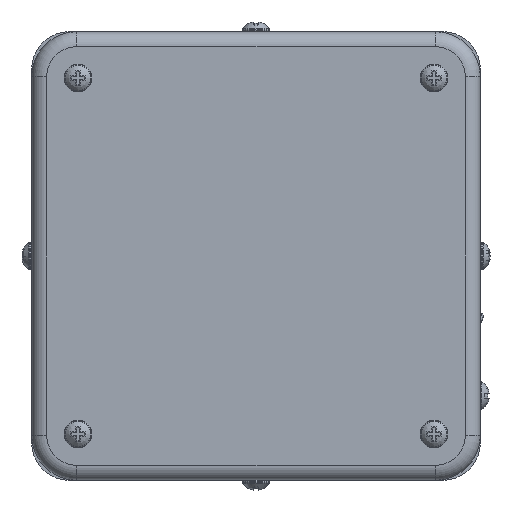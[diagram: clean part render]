
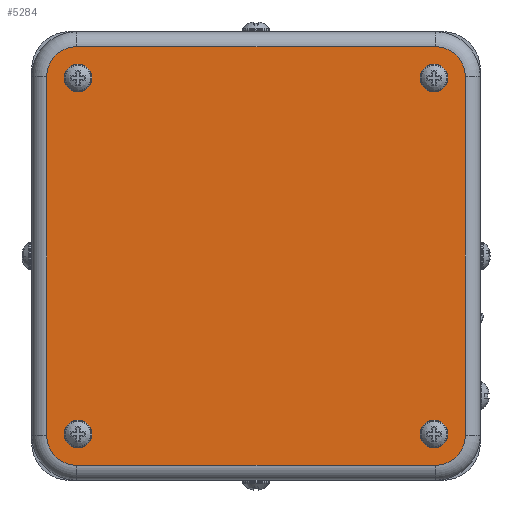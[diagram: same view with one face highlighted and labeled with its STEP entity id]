
A CAD part, left-side view. The second image highlights one B-rep face of the part: STEP entity #5284.
In plain terms, the highlighted planar face has unit normal (-1, 0, 0).
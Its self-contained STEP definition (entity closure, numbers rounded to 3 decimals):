
#340=FACE_BOUND('',#1137,.T.);
#341=FACE_BOUND('',#1138,.T.);
#342=FACE_BOUND('',#1139,.T.);
#343=FACE_BOUND('',#1140,.T.);
#437=CIRCLE('',#5549,2.8);
#517=CIRCLE('',#5737,6.);
#520=CIRCLE('',#5742,6.);
#523=CIRCLE('',#5747,6.);
#525=CIRCLE('',#5751,6.);
#526=CIRCLE('',#5753,2.8);
#527=CIRCLE('',#5754,2.8);
#528=CIRCLE('',#5755,2.8);
#750=FACE_OUTER_BOUND('',#1136,.T.);
#1136=EDGE_LOOP('',(#3955,#3956,#3957,#3958,#3959,#3960,#3961,#3962));
#1137=EDGE_LOOP('',(#3963));
#1138=EDGE_LOOP('',(#3964));
#1139=EDGE_LOOP('',(#3965));
#1140=EDGE_LOOP('',(#3966));
#1490=LINE('',#8347,#1857);
#1493=LINE('',#8358,#1860);
#1495=LINE('',#8367,#1862);
#1497=LINE('',#8376,#1864);
#1857=VECTOR('',#6723,72.);
#1860=VECTOR('',#6738,72.);
#1862=VECTOR('',#6750,72.);
#1864=VECTOR('',#6762,72.);
#2117=VERTEX_POINT('',#7530);
#2303=VERTEX_POINT('',#8344);
#2304=VERTEX_POINT('',#8346);
#2305=VERTEX_POINT('',#8351);
#2306=VERTEX_POINT('',#8356);
#2307=VERTEX_POINT('',#8360);
#2308=VERTEX_POINT('',#8365);
#2309=VERTEX_POINT('',#8369);
#2310=VERTEX_POINT('',#8374);
#2311=VERTEX_POINT('',#8380);
#2312=VERTEX_POINT('',#8382);
#2313=VERTEX_POINT('',#8384);
#2628=EDGE_CURVE('',#2117,#2117,#437,.T.);
#2888=EDGE_CURVE('',#2303,#2304,#1490,.T.);
#2892=EDGE_CURVE('',#2305,#2303,#517,.T.);
#2895=EDGE_CURVE('',#2306,#2305,#1493,.T.);
#2897=EDGE_CURVE('',#2307,#2306,#520,.T.);
#2900=EDGE_CURVE('',#2308,#2307,#1495,.T.);
#2902=EDGE_CURVE('',#2309,#2308,#523,.T.);
#2905=EDGE_CURVE('',#2310,#2309,#1497,.T.);
#2906=EDGE_CURVE('',#2304,#2310,#525,.T.);
#2907=EDGE_CURVE('',#2311,#2311,#526,.T.);
#2908=EDGE_CURVE('',#2312,#2312,#527,.T.);
#2909=EDGE_CURVE('',#2313,#2313,#528,.T.);
#3955=ORIENTED_EDGE('',*,*,#2906,.F.);
#3956=ORIENTED_EDGE('',*,*,#2888,.F.);
#3957=ORIENTED_EDGE('',*,*,#2892,.F.);
#3958=ORIENTED_EDGE('',*,*,#2895,.F.);
#3959=ORIENTED_EDGE('',*,*,#2897,.F.);
#3960=ORIENTED_EDGE('',*,*,#2900,.F.);
#3961=ORIENTED_EDGE('',*,*,#2902,.F.);
#3962=ORIENTED_EDGE('',*,*,#2905,.F.);
#3963=ORIENTED_EDGE('',*,*,#2907,.T.);
#3964=ORIENTED_EDGE('',*,*,#2628,.T.);
#3965=ORIENTED_EDGE('',*,*,#2908,.T.);
#3966=ORIENTED_EDGE('',*,*,#2909,.T.);
#4692=PLANE('',#5752);
#5284=ADVANCED_FACE('',(#750,#340,#341,#342,#343),#4692,.F.);
#5549=AXIS2_PLACEMENT_3D('',#7531,#6207,#6208);
#5737=AXIS2_PLACEMENT_3D('',#8353,#6731,#6732);
#5742=AXIS2_PLACEMENT_3D('',#8362,#6743,#6744);
#5747=AXIS2_PLACEMENT_3D('',#8371,#6755,#6756);
#5751=AXIS2_PLACEMENT_3D('',#8378,#6765,#6766);
#5752=AXIS2_PLACEMENT_3D('',#8379,#6767,#6768);
#5753=AXIS2_PLACEMENT_3D('',#8381,#6769,#6770);
#5754=AXIS2_PLACEMENT_3D('',#8383,#6771,#6772);
#5755=AXIS2_PLACEMENT_3D('',#8385,#6773,#6774);
#6207=DIRECTION('center_axis',(1.,0.,0.));
#6208=DIRECTION('ref_axis',(0.,0.,1.));
#6723=DIRECTION('',(0.,0.,-1.));
#6731=DIRECTION('center_axis',(1.,0.,0.));
#6732=DIRECTION('ref_axis',(0.,-0.707,0.707));
#6738=DIRECTION('',(0.,-1.,0.));
#6743=DIRECTION('center_axis',(1.,0.,0.));
#6744=DIRECTION('ref_axis',(0.,0.707,0.707));
#6750=DIRECTION('',(0.,0.,1.));
#6755=DIRECTION('center_axis',(1.,0.,0.));
#6756=DIRECTION('ref_axis',(0.,0.707,-0.707));
#6762=DIRECTION('',(0.,1.,0.));
#6765=DIRECTION('center_axis',(1.,0.,0.));
#6766=DIRECTION('ref_axis',(0.,-0.707,-0.707));
#6767=DIRECTION('center_axis',(1.,0.,0.));
#6768=DIRECTION('ref_axis',(0.,0.,-1.));
#6769=DIRECTION('center_axis',(1.,0.,0.));
#6770=DIRECTION('ref_axis',(0.,0.,1.));
#6771=DIRECTION('center_axis',(1.,0.,0.));
#6772=DIRECTION('ref_axis',(0.,0.,1.));
#6773=DIRECTION('center_axis',(1.,0.,0.));
#6774=DIRECTION('ref_axis',(0.,0.,1.));
#7530=CARTESIAN_POINT('',(-54.8,-35.709,32.909));
#7531=CARTESIAN_POINT('Origin',(-54.8,-35.709,35.709));
#8344=CARTESIAN_POINT('',(-54.8,-42.,36.));
#8346=CARTESIAN_POINT('',(-54.8,-42.,-36.));
#8347=CARTESIAN_POINT('',(-54.8,-42.,36.));
#8351=CARTESIAN_POINT('',(-54.8,-36.,42.));
#8353=CARTESIAN_POINT('Origin',(-54.8,-36.,36.));
#8356=CARTESIAN_POINT('',(-54.8,36.,42.));
#8358=CARTESIAN_POINT('',(-54.8,36.,42.));
#8360=CARTESIAN_POINT('',(-54.8,42.,36.));
#8362=CARTESIAN_POINT('Origin',(-54.8,36.,36.));
#8365=CARTESIAN_POINT('',(-54.8,42.,-36.));
#8367=CARTESIAN_POINT('',(-54.8,42.,-36.));
#8369=CARTESIAN_POINT('',(-54.8,36.,-42.));
#8371=CARTESIAN_POINT('Origin',(-54.8,36.,-36.));
#8374=CARTESIAN_POINT('',(-54.8,-36.,-42.));
#8376=CARTESIAN_POINT('',(-54.8,-36.,-42.));
#8378=CARTESIAN_POINT('Origin',(-54.8,-36.,-36.));
#8379=CARTESIAN_POINT('Origin',(-54.8,-7.027,-7.027));
#8380=CARTESIAN_POINT('',(-54.8,35.709,32.909));
#8381=CARTESIAN_POINT('Origin',(-54.8,35.709,35.709));
#8382=CARTESIAN_POINT('',(-54.8,35.709,-38.509));
#8383=CARTESIAN_POINT('Origin',(-54.8,35.709,-35.709));
#8384=CARTESIAN_POINT('',(-54.8,-35.709,-38.509));
#8385=CARTESIAN_POINT('Origin',(-54.8,-35.709,-35.709));
